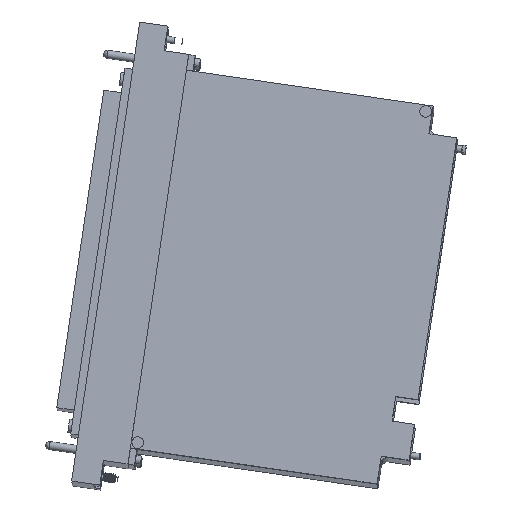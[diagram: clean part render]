
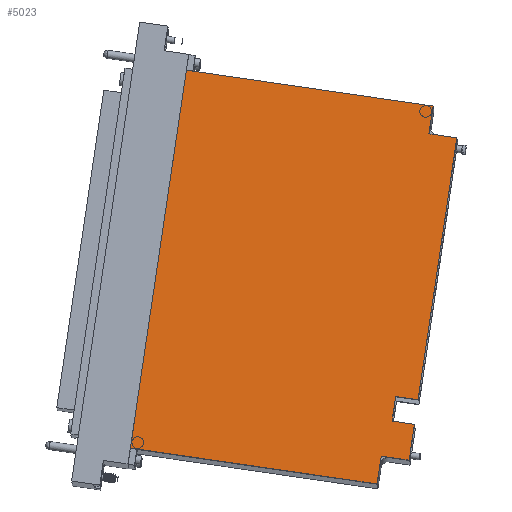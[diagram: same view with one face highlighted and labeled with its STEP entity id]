
A CAD part, front view. The second image highlights one B-rep face of the part: STEP entity #5023.
In plain terms, the highlighted planar face has unit normal (-0.017, -0.995, 0.097).
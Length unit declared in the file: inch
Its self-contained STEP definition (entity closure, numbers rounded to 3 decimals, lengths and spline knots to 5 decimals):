
#4722=CARTESIAN_POINT('',(2.41935,-2.44341,1.70417));
#4723=VERTEX_POINT('',#4722);
#4730=CARTESIAN_POINT('',(2.76555,-2.45415,1.6539));
#4731=VERTEX_POINT('',#4730);
#4732=CARTESIAN_POINT('',(2.76555,-2.45415,1.6539));
#4733=DIRECTION('',(-0.989,0.031,0.144));
#4734=VECTOR('',#4733,0.35);
#4735=LINE('',#4732,#4734);
#4736=EDGE_CURVE('',#4731,#4723,#4735,.T.);
#4753=CARTESIAN_POINT('',(2.68334,-2.5067,1.09894));
#4754=VERTEX_POINT('',#4753);
#4755=CARTESIAN_POINT('',(2.68334,-2.5067,1.09894));
#4756=DIRECTION('',(0.146,0.093,0.985));
#4757=VECTOR('',#4756,0.56346);
#4758=LINE('',#4755,#4757);
#4759=EDGE_CURVE('',#4754,#4731,#4758,.T.);
#4778=CARTESIAN_POINT('',(2.25058,-2.49328,1.16178));
#4779=VERTEX_POINT('',#4778);
#4780=CARTESIAN_POINT('',(2.25058,-2.49328,1.16178));
#4781=DIRECTION('',(0.989,-0.031,-0.144));
#4782=VECTOR('',#4781,0.4375);
#4783=LINE('',#4780,#4782);
#4784=EDGE_CURVE('',#4779,#4754,#4783,.T.);
#4802=CARTESIAN_POINT('',(2.18689,-2.53399,0.73184));
#4803=VERTEX_POINT('',#4802);
#4804=CARTESIAN_POINT('',(2.18689,-2.53399,0.73184));
#4805=DIRECTION('',(0.146,0.093,0.985));
#4806=VECTOR('',#4805,0.43654);
#4807=LINE('',#4804,#4806);
#4808=EDGE_CURVE('',#4803,#4779,#4807,.T.);
#4826=CARTESIAN_POINT('',(-1.63174,-2.41554,1.28634));
#4827=VERTEX_POINT('',#4826);
#4828=CARTESIAN_POINT('',(-1.63174,-2.41554,1.28634));
#4829=DIRECTION('',(0.989,-0.031,-0.144));
#4830=VECTOR('',#4829,3.8605);
#4831=LINE('',#4828,#4830);
#4832=EDGE_CURVE('',#4827,#4803,#4831,.T.);
#4850=CARTESIAN_POINT('',(-0.76505,-1.86158,7.1366));
#4851=VERTEX_POINT('',#4850);
#4852=CARTESIAN_POINT('',(-0.76505,-1.86158,7.1366));
#4853=DIRECTION('',(-0.146,-0.093,-0.985));
#4854=VECTOR('',#4853,5.94);
#4855=LINE('',#4852,#4854);
#4856=EDGE_CURVE('',#4851,#4827,#4855,.T.);
#4874=CARTESIAN_POINT('',(3.05358,-1.98003,6.58211));
#4875=VERTEX_POINT('',#4874);
#4876=CARTESIAN_POINT('',(3.05358,-1.98003,6.58211));
#4877=DIRECTION('',(-0.989,0.031,0.144));
#4878=VECTOR('',#4877,3.8605);
#4879=LINE('',#4876,#4878);
#4880=EDGE_CURVE('',#4875,#4851,#4879,.T.);
#4898=CARTESIAN_POINT('',(2.98989,-2.02074,6.15217));
#4899=VERTEX_POINT('',#4898);
#4900=CARTESIAN_POINT('',(2.98989,-2.02074,6.15217));
#4901=DIRECTION('',(0.146,0.093,0.985));
#4902=VECTOR('',#4901,0.43654);
#4903=LINE('',#4900,#4902);
#4904=EDGE_CURVE('',#4899,#4875,#4903,.T.);
#4922=CARTESIAN_POINT('',(3.42264,-2.03416,6.08933));
#4923=VERTEX_POINT('',#4922);
#4924=CARTESIAN_POINT('',(3.42264,-2.03416,6.08933));
#4925=DIRECTION('',(-0.989,0.031,0.144));
#4926=VECTOR('',#4925,0.4375);
#4927=LINE('',#4924,#4926);
#4928=EDGE_CURVE('',#4923,#4899,#4927,.T.);
#4944=CARTESIAN_POINT('',(2.82202,-2.41806,2.03505));
#4945=VERTEX_POINT('',#4944);
#4954=CARTESIAN_POINT('',(2.82202,-2.41806,2.03505));
#4955=DIRECTION('',(0.146,0.093,0.985));
#4956=VECTOR('',#4955,4.11646);
#4957=LINE('',#4954,#4956);
#4958=EDGE_CURVE('',#4945,#4923,#4957,.T.);
#4970=CARTESIAN_POINT('',(2.47581,-2.40732,2.08532));
#4971=VERTEX_POINT('',#4970);
#4972=CARTESIAN_POINT('',(2.47581,-2.40732,2.08532));
#4973=DIRECTION('',(0.989,-0.031,-0.144));
#4974=VECTOR('',#4973,0.35);
#4975=LINE('',#4972,#4974);
#4976=EDGE_CURVE('',#4971,#4945,#4975,.T.);
#4994=CARTESIAN_POINT('',(2.41935,-2.44341,1.70417));
#4995=DIRECTION('',(0.146,0.093,0.985));
#4996=VECTOR('',#4995,0.387);
#4997=LINE('',#4994,#4996);
#4998=EDGE_CURVE('',#4723,#4971,#4997,.T.);
#5004=CARTESIAN_POINT('',(0.90884,-2.20392,3.90548));
#5005=DIRECTION('',(0.017,0.995,-0.097));
#5006=DIRECTION('',(-0.989,0.031,0.144));
#5007=AXIS2_PLACEMENT_3D('',#5004,#5005,#5006);
#5008=PLANE('',#5007);
#5009=ORIENTED_EDGE('',*,*,#4976,.T.);
#5010=ORIENTED_EDGE('',*,*,#4958,.T.);
#5011=ORIENTED_EDGE('',*,*,#4928,.T.);
#5012=ORIENTED_EDGE('',*,*,#4904,.T.);
#5013=ORIENTED_EDGE('',*,*,#4880,.T.);
#5014=ORIENTED_EDGE('',*,*,#4856,.T.);
#5015=ORIENTED_EDGE('',*,*,#4832,.T.);
#5016=ORIENTED_EDGE('',*,*,#4808,.T.);
#5017=ORIENTED_EDGE('',*,*,#4784,.T.);
#5018=ORIENTED_EDGE('',*,*,#4759,.T.);
#5019=ORIENTED_EDGE('',*,*,#4736,.T.);
#5020=ORIENTED_EDGE('',*,*,#4998,.T.);
#5021=EDGE_LOOP('',(#5009,#5010,#5011,#5012,#5013,#5014,#5015,#5016,#5017,#5018,#5019,#5020));
#5022=FACE_OUTER_BOUND('',#5021,.T.);
#5023=ADVANCED_FACE('',(#5022),#5008,.F.);
